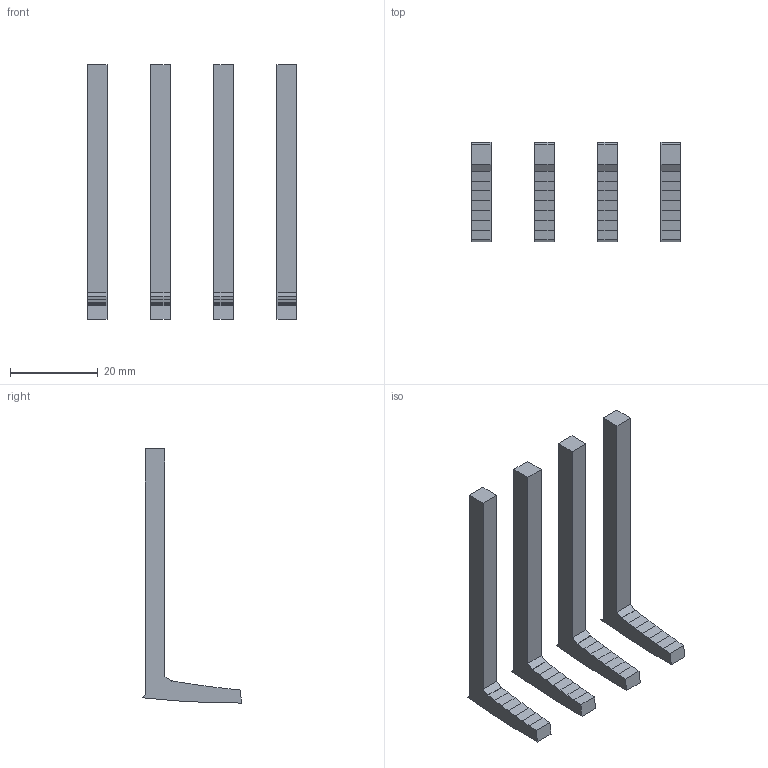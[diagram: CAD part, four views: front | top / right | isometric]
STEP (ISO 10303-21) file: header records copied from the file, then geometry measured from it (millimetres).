
FILE_DESCRIPTION(('Open CASCADE Model'),'2;1');
FILE_NAME('Open CASCADE Shape Model','2026-10-16T03:37:36',('Author'),( 'Open CASCADE'),'Open CASCADE STEP processor 7.9','Open CASCADE 7.9' ,'Unknown');
FILE_SCHEMA(('AUTOMOTIVE_DESIGN { 1 0 10303 214 1 1 1 1 }'));
Length unit declared in the file: millimetre
Products named in the file (5): Open CASCADE STEP translator 7.9 10; Open CASCADE STEP translator 7.9 10.1; Open CASCADE STEP translator 7.9 10.2; Open CASCADE STEP translator 7.9 10.3; Open CASCADE STEP translator 7.9 10.4
Assembly tree (4 placements, depth 2):
  Open CASCADE STEP translator 7.9 10
    Open CASCADE STEP translator 7.9 10.1
    Open CASCADE STEP translator 7.9 10.2
    Open CASCADE STEP translator 7.9 10.3
    Open CASCADE STEP translator 7.9 10.4
Bounding box: 47.6 x 22.7 x 58 mm (x, y, z)
Volume: 5698.6 mm3; surface area: 5353 mm2
Topology: 4 solids, 4 shells, 68 faces, 180 edges, 120 vertices
Faces by surface type: plane 64, cylinder 4
Entity records: 4496 total; most frequent: CARTESIAN_POINT 797, DIRECTION 670, LINE 508, VECTOR 508, ORIENTED_EDGE 360, PCURVE 360, DEFINITIONAL_REPRESENTATION 360, EDGE_CURVE 180
